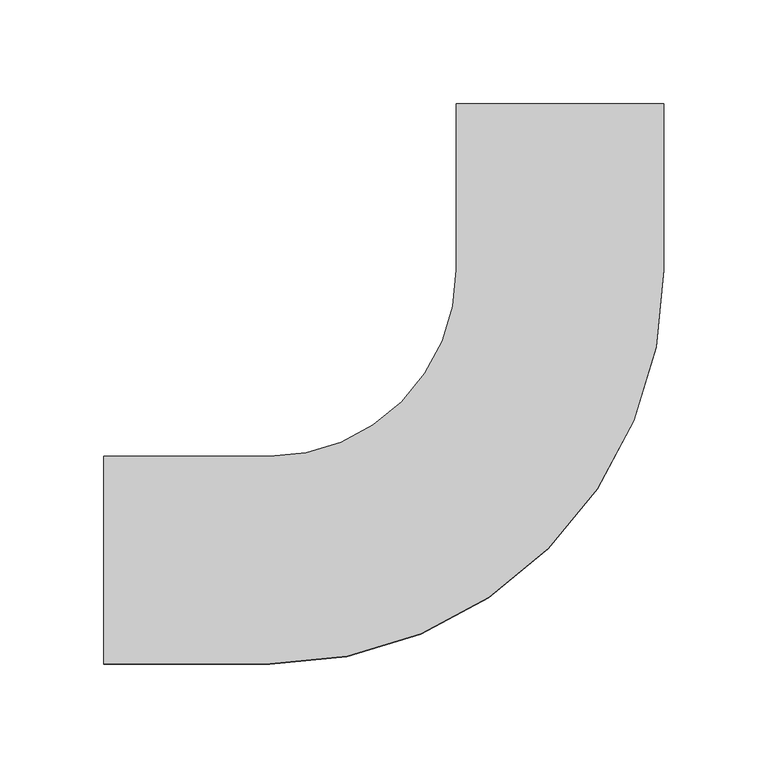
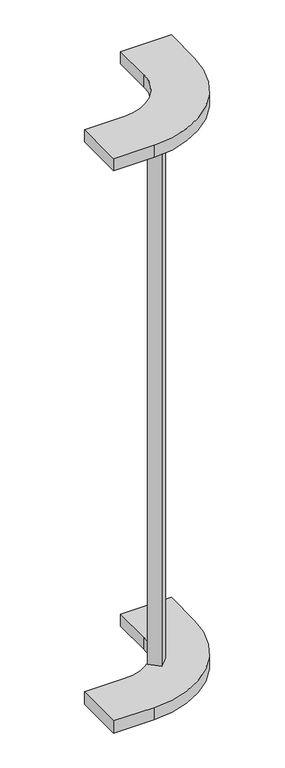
"""IFC4 building model written with IfcOpenShell, lengths in millimetres: cable carrier fitting geometry, Common_はしご垂直外側曲げ : 03 強電_低圧."""

from ifc_helpers import new_model, si_unit, point, frame, frame_2d, origin, place, context, project, spatial, polyline, circle_curve, trimmed, segment, composite_curve, outline, extrude, source, transform, mapped, element, save


def cable_carrier_fitting_da1cf44d(model_context):
    return source(origin(), model_context, "Body", "SweptSolid", [
        extrude(outline(polyline([(-67.3801336, 85.3406458), (-49.4196213, 67.3801336), (-67.3801336, 49.4196213), (-85.3406458, 67.3801336), (-67.3801336, 85.3406458)])), frame((0.0, 0.0, -574.6), z_axis=(0.0, 0.0, 1.0), x_axis=(1.0, 0.0, 0.0)), (0.0, 0.0, 1.0), 1149.2),
        extrude(outline(composite_curve([segment(polyline([(-220.0, -50.0), (-220.0, 50.0), (-140.0, 50.0)]), True, "CONTINUOUS"), segment(trimmed(circle_curve(frame_2d((-140.0, 140.0)), 90.0), [point((-140.0, 50.0))], [point((-50.0, 140.0))], True, "CARTESIAN"), True, "CONTINUOUS"), segment(polyline([(-50.0, 140.0), (-50.0, 220.0), (50.0, 220.0), (50.0, 140.0)]), True, "CONTINUOUS"), segment(trimmed(circle_curve(frame_2d((-140.0, 140.0)), 190.0), [point((50.0, 140.0))], [point((-140.0, -50.0))], False, "CARTESIAN"), True, "CONTINUOUS"), segment(polyline([(-140.0, -50.0), (-220.0, -50.0)]), True, "CONTINUOUS")], self_intersect=False)), frame((0.0, 0.0, 574.6), z_axis=(0.0, 0.0, 1.0), x_axis=(1.0, 0.0, 0.0)), (0.0, 0.0, 1.0), 25.4),
        extrude(outline(composite_curve([segment(polyline([(-220.0, -50.0), (-220.0, 50.0), (-140.0, 50.0)]), True, "CONTINUOUS"), segment(trimmed(circle_curve(frame_2d((-140.0, 140.0)), 90.0), [point((-140.0, 50.0))], [point((-50.0, 140.0))], True, "CARTESIAN"), True, "CONTINUOUS"), segment(polyline([(-50.0, 140.0), (-50.0, 220.0), (50.0, 220.0), (50.0, 140.0)]), True, "CONTINUOUS"), segment(trimmed(circle_curve(frame_2d((-140.0, 140.0)), 190.0), [point((50.0, 140.0))], [point((-140.0, -50.0))], False, "CARTESIAN"), True, "CONTINUOUS"), segment(polyline([(-140.0, -50.0), (-220.0, -50.0)]), True, "CONTINUOUS")], self_intersect=False)), frame((0.0, 0.0, -600.0), z_axis=(0.0, 0.0, 1.0), x_axis=(1.0, 0.0, 0.0)), (0.0, 0.0, 1.0), 25.4),
    ])


if __name__ == "__main__":
    model = new_model("IFC4")
    model_context = context("Model", 3, world=origin())
    ifc_project = project(units=[si_unit("LENGTHUNIT", "METRE", prefix="MILLI")], contexts=[model_context])
    site = spatial("IfcSite", under=ifc_project)
    building = spatial("IfcBuilding", under=site)
    placement = place(None, origin())
    cable_carrier_fitting_shape = cable_carrier_fitting_da1cf44d(model_context)
    element("IfcCableCarrierFitting", 1, ObjectType="Common_はしご垂直外側曲げ : 03 強電_低圧", at=placement, inside=building, context=model_context, shape_type="MappedRepresentation", body=[
        mapped(cable_carrier_fitting_shape, transform((0.0, 0.0, 0.0), x_axis=(1.0, 0.0, 0.0), y_axis=(0.0, 1.0, 0.0), z_axis=(0.0, 0.0, 1.0))),
    ])
    save(model, "model.ifc")
